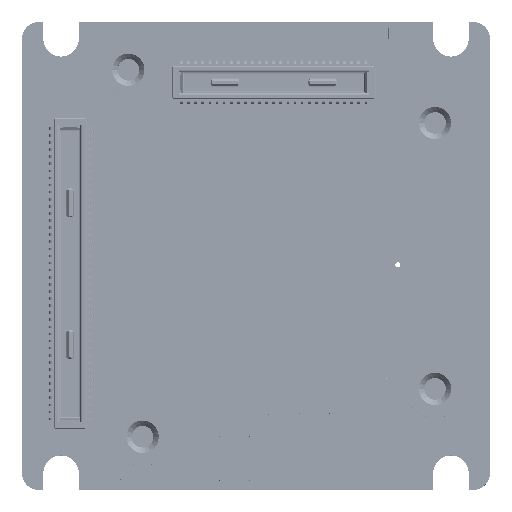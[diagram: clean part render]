
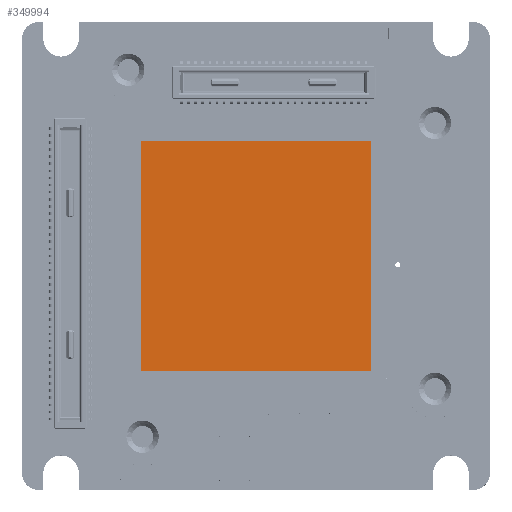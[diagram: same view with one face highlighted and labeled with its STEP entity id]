
A CAD part, top view. The second image highlights one B-rep face of the part: STEP entity #349994.
In plain terms, the highlighted planar face has unit normal (0, 0, 1).
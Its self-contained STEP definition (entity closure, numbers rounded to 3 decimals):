
#12301 = VECTOR ( 'NONE', #36248, 1000. ) ;
#36248 = DIRECTION ( 'NONE',  ( -1., 0., 0. ) ) ;
#47867 = AXIS2_PLACEMENT_3D ( 'NONE', #749094, #454475, #399546 ) ;
#71187 = EDGE_CURVE ( 'NONE', #518898, #458831, #624665, .T. ) ;
#108941 = DIRECTION ( 'NONE',  ( 0., -1., 0. ) ) ;
#114314 = ORIENTED_EDGE ( 'NONE', *, *, #651714, .F. ) ;
#164460 = CARTESIAN_POINT ( 'NONE',  ( 6.5, 6.5, 6.162 ) ) ;
#168302 = ORIENTED_EDGE ( 'NONE', *, *, #758917, .F. ) ;
#176669 = DIRECTION ( 'NONE',  ( 1., 0., 0. ) ) ;
#184310 = CARTESIAN_POINT ( 'NONE',  ( -6.5, 6.5, 6.162 ) ) ;
#220444 = LINE ( 'NONE', #459742, #12301 ) ;
#250014 = ORIENTED_EDGE ( 'NONE', *, *, #71187, .F. ) ;
#302094 = VERTEX_POINT ( 'NONE', #308833 ) ;
#308833 = CARTESIAN_POINT ( 'NONE',  ( 6.5, -6.5, 6.162 ) ) ;
#349994 = ADVANCED_FACE ( 'NONE', ( #446772 ), #627380, .F. ) ;
#399546 = DIRECTION ( 'NONE',  ( 0., -1., 0. ) ) ;
#416438 = EDGE_CURVE ( 'NONE', #533285, #302094, #705367, .T. ) ;
#440148 = DIRECTION ( 'NONE',  ( 0., 1., 0. ) ) ;
#446772 = FACE_OUTER_BOUND ( 'NONE', #488288, .T. ) ;
#454475 = DIRECTION ( 'NONE',  ( 0., 0., -1. ) ) ;
#458831 = VERTEX_POINT ( 'NONE', #623322 ) ;
#459742 = CARTESIAN_POINT ( 'NONE',  ( 6.5, -6.5, 6.162 ) ) ;
#488288 = EDGE_LOOP ( 'NONE', ( #168302, #695157, #114314, #250014 ) ) ;
#518898 = VERTEX_POINT ( 'NONE', #568374 ) ;
#523662 = VECTOR ( 'NONE', #440148, 1000. ) ;
#533285 = VERTEX_POINT ( 'NONE', #164460 ) ;
#568374 = CARTESIAN_POINT ( 'NONE',  ( -6.5, -6.5, 6.162 ) ) ;
#623322 = CARTESIAN_POINT ( 'NONE',  ( -6.5, 6.5, 6.162 ) ) ;
#624665 = LINE ( 'NONE', #757953, #523662 ) ;
#627380 = PLANE ( 'NONE',  #47867 ) ;
#630986 = CARTESIAN_POINT ( 'NONE',  ( 6.5, 6.5, 6.162 ) ) ;
#650220 = VECTOR ( 'NONE', #108941, 1000. ) ;
#651714 = EDGE_CURVE ( 'NONE', #458831, #533285, #706620, .T. ) ;
#695157 = ORIENTED_EDGE ( 'NONE', *, *, #416438, .F. ) ;
#705367 = LINE ( 'NONE', #630986, #650220 ) ;
#706620 = LINE ( 'NONE', #184310, #710366 ) ;
#710366 = VECTOR ( 'NONE', #176669, 1000. ) ;
#749094 = CARTESIAN_POINT ( 'NONE',  ( 0., 0., 6.162 ) ) ;
#757953 = CARTESIAN_POINT ( 'NONE',  ( -6.5, -6.5, 6.162 ) ) ;
#758917 = EDGE_CURVE ( 'NONE', #302094, #518898, #220444, .T. ) ;
